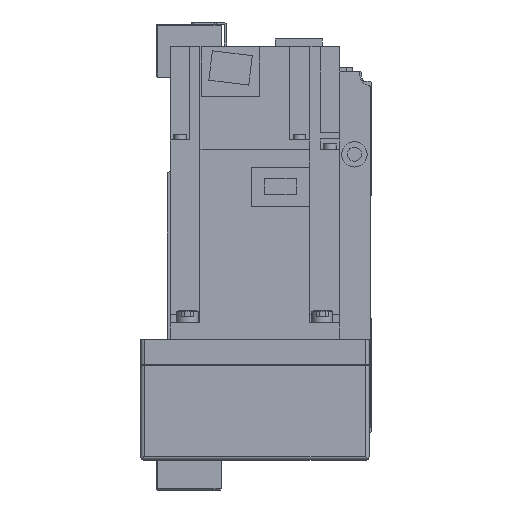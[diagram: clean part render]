
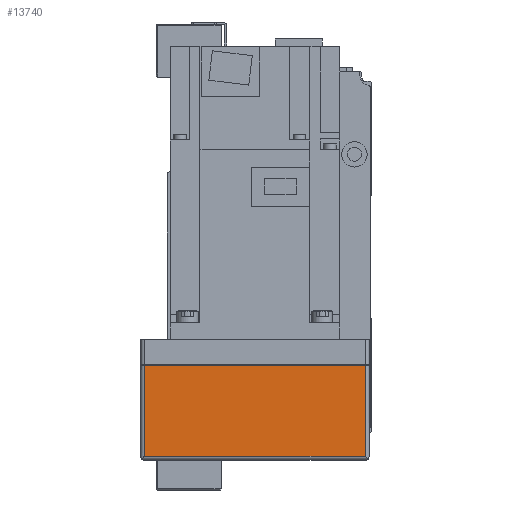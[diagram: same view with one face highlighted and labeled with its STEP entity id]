
A CAD part, left-side view. The second image highlights one B-rep face of the part: STEP entity #13740.
In plain terms, the highlighted planar face has unit normal (-1, 0, 0).
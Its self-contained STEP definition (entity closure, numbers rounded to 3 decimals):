
#2478=ORIENTED_EDGE('',*,*,#5712,.T.);
#2479=ORIENTED_EDGE('',*,*,#5640,.T.);
#2480=ORIENTED_EDGE('',*,*,#5713,.F.);
#2481=ORIENTED_EDGE('',*,*,#5652,.F.);
#5640=EDGE_CURVE('',#7406,#7409,#8850,.T.);
#5652=EDGE_CURVE('',#7416,#7418,#8855,.T.);
#5712=EDGE_CURVE('',#7416,#7406,#8897,.T.);
#5713=EDGE_CURVE('',#7418,#7409,#8898,.T.);
#7406=VERTEX_POINT('',#21467);
#7409=VERTEX_POINT('',#21473);
#7416=VERTEX_POINT('',#21496);
#7418=VERTEX_POINT('',#21499);
#8850=LINE('',#21474,#10163);
#8855=LINE('',#21498,#10168);
#8897=LINE('',#21622,#10210);
#8898=LINE('',#21623,#10211);
#10163=VECTOR('',#17155,1000.);
#10168=VECTOR('',#17182,1000.);
#10210=VECTOR('',#17302,1000.);
#10211=VECTOR('',#17303,1000.);
#11319=EDGE_LOOP('',(#2478,#2479,#2480,#2481));
#12322=FACE_BOUND('',#11319,.T.);
#13157=PLANE('',#14761);
#13740=ADVANCED_FACE('',(#12322),#13157,.T.);
#14761=AXIS2_PLACEMENT_3D('',#21621,#17300,#17301);
#17155=DIRECTION('',(0.,0.,1.));
#17182=DIRECTION('',(0.,0.,1.));
#17300=DIRECTION('',(-1.,0.,0.));
#17301=DIRECTION('',(0.,0.,1.));
#17302=DIRECTION('',(0.,-1.,0.));
#17303=DIRECTION('',(0.,-1.,0.));
#21467=CARTESIAN_POINT('',(-230.,-52.,-55.));
#21473=CARTESIAN_POINT('',(-230.,-52.,-12.));
#21474=CARTESIAN_POINT('',(-230.,-52.,-57.));
#21496=CARTESIAN_POINT('',(-230.,52.,-55.));
#21498=CARTESIAN_POINT('',(-230.,52.,-57.));
#21499=CARTESIAN_POINT('',(-230.,52.,-12.));
#21621=CARTESIAN_POINT('',(-230.,52.,-57.));
#21622=CARTESIAN_POINT('',(-230.,54.,-55.));
#21623=CARTESIAN_POINT('',(-230.,52.,-12.));
